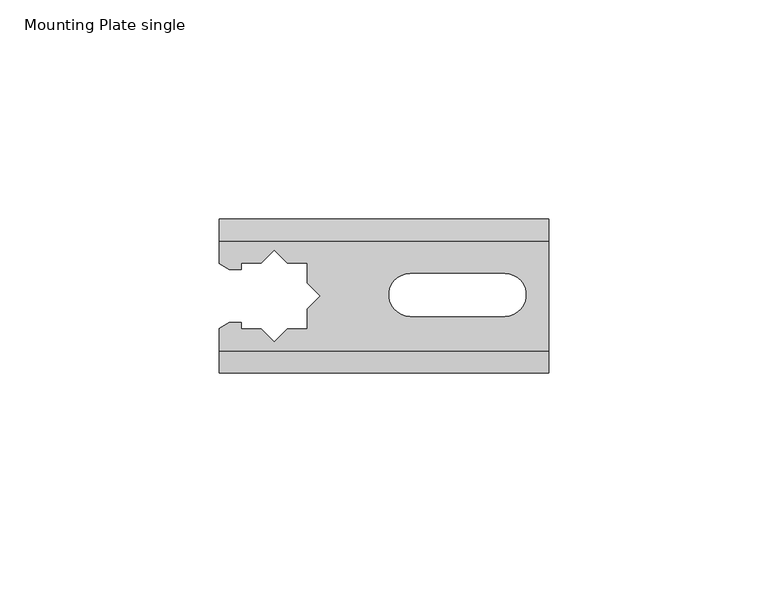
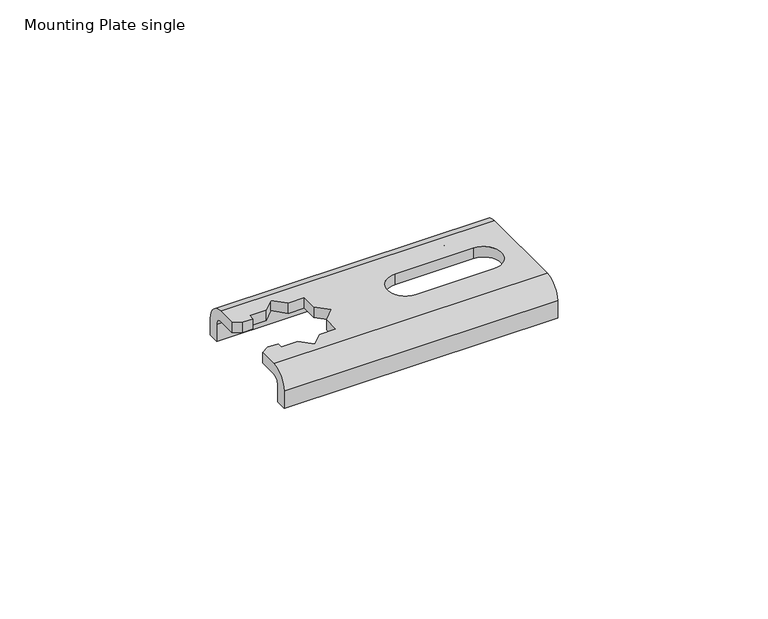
"""IFC4 building model written with IfcOpenShell, lengths in millimetres: valve geometry, Mounting Plate single : Superpipe Mounting Plate - 73 mm single."""

from ifc_helpers import new_model, si_unit, frame, origin, place, context, project, spatial, polyline, circle_curve, source, transform, mapped, element, save
from ifc_brep_helpers import plane_surface, cylinder_surface, revolved_surface, advanced_brep


def mounting_plate_single_762f868f(model_context):
    return source(origin(), model_context, "Body", "AdvancedBrep", [
        advanced_brep(
        [(75.0, 32.0, 0.0), (75.0, 35.0, 0.0), (75.0, 35.0, 5.0), (75.0, 30.0, 10.0), (75.0, 5.0, 10.0), (75.0, 0.0, 5.0), (75.0, 0.0, 0.0), (75.0, 3.0, 0.0), (75.0, 3.0, 5.0), (75.0, 5.0, 7.0), (75.0, 30.0, 7.0), (75.0, 32.0, 5.0), (0.0, 32.0, 0.0), (0.0, 32.0, 5.0), (0.0, 30.0, 7.0), (0.0, 24.8603514, 7.0), (0.0, 24.8603514, 10.0), (0.0, 30.0, 10.0), (0.0, 35.0, 5.0), (0.0, 35.0, 0.0), (0.0, 5.0, 7.0), (0.0, 3.0, 5.0), (0.0, 3.0, 0.0), (0.0, 0.0, 0.0), (0.0, 0.0, 5.0), (0.0, 5.0, 10.0), (0.0, 10.1396486, 10.0), (0.0, 10.1396486, 7.0), (2.2011526, 23.5, 10.0), (5.0, 23.5, 10.0), (5.0, 25.0, 10.0), (9.5, 25.0, 10.0), (12.5, 28.0, 10.0), (15.5, 25.0, 10.0), (20.0, 25.0, 10.0), (20.0, 20.5, 10.0), (23.0, 17.5, 10.0), (20.0, 14.5, 10.0), (20.0, 10.0, 10.0), (15.5, 10.0, 10.0), (12.5, 7.0, 10.0), (9.5, 10.0, 10.0), (5.0, 10.0, 10.0), (5.0, 11.5, 10.0), (2.2011526, 11.5, 10.0), (43.5, 22.638824, 10.0), (65.0, 22.638824, 10.0), (65.0, 12.8766605, 10.0), (43.5, 12.8766605, 10.0), (2.2011526, 11.5, 7.0), (5.0, 11.5, 7.0), (5.0, 10.0, 7.0), (9.5, 10.0, 7.0), (12.5, 7.0, 7.0), (15.5, 10.0, 7.0), (20.0, 10.0, 7.0), (20.0, 14.5, 7.0), (23.0, 17.5, 7.0), (20.0, 20.5, 7.0), (20.0, 25.0, 7.0), (15.5, 25.0, 7.0), (12.5, 28.0, 7.0), (9.5, 25.0, 7.0), (5.0, 25.0, 7.0), (5.0, 23.5, 7.0), (2.2011526, 23.5, 7.0), (65.0, 22.638824, 7.0), (43.5, 22.638824, 7.0), (43.5, 12.8766605, 7.0), (65.0, 12.8766605, 7.0)],
        [
            (0, 1),
            (1, 2),
            (2, 3, circle_curve(frame((75.0, 30.0, 5.0), z_axis=(1.0, 0.0, 0.0), x_axis=(0.0, 1.0, 0.0)), 5.0)),
            (3, 4),
            (4, 5, circle_curve(frame((75.0, 5.0, 5.0), z_axis=(1.0, 0.0, 0.0), x_axis=(0.0, 1.0, 0.0)), 5.0)),
            (5, 6),
            (6, 7),
            (7, 8),
            (8, 9, circle_curve(frame((75.0, 5.0, 5.0), z_axis=(-1.0, 0.0, 0.0), x_axis=(0.0, 1.0, 0.0)), 2.0)),
            (9, 10),
            (10, 11, circle_curve(frame((75.0, 30.0, 5.0), z_axis=(-1.0, 0.0, 0.0), x_axis=(0.0, 1.0, 0.0)), 2.0)),
            (11, 0),
            (12, 13),
            (13, 14, circle_curve(frame((0.0, 30.0, 5.0), z_axis=(1.0, 0.0, 0.0), x_axis=(0.0, 1.0, 0.0)), 2.0)),
            (14, 15),
            (15, 16),
            (16, 17),
            (17, 18, circle_curve(frame((0.0, 30.0, 5.0), z_axis=(-1.0, 0.0, 0.0), x_axis=(0.0, 1.0, 0.0)), 5.0)),
            (18, 19),
            (19, 12),
            (20, 21, circle_curve(frame((0.0, 5.0, 5.0), z_axis=(1.0, 0.0, 0.0), x_axis=(0.0, 1.0, 0.0)), 2.0)),
            (21, 22),
            (22, 23),
            (23, 24),
            (24, 25, circle_curve(frame((0.0, 5.0, 5.0), z_axis=(-1.0, 0.0, 0.0), x_axis=(0.0, 1.0, 0.0)), 5.0)),
            (25, 26),
            (26, 27),
            (27, 20),
            (0, 12),
            (19, 1),
            (18, 2),
            (17, 3),
            (16, 28),
            (28, 29),
            (29, 30),
            (30, 31),
            (31, 32),
            (32, 33),
            (33, 34),
            (34, 35),
            (35, 36),
            (36, 37),
            (37, 38),
            (38, 39),
            (39, 40),
            (40, 41),
            (41, 42),
            (42, 43),
            (43, 44),
            (44, 26),
            (25, 4),
            (45, 46),
            (46, 47, circle_curve(frame((65.0, 17.7577423, 10.0), z_axis=(0.0, 0.0, -1.0), x_axis=(1.0, 0.0, 0.0)), 4.8810818)),
            (47, 48),
            (48, 45, circle_curve(frame((43.5, 17.7577423, 10.0), z_axis=(0.0, 0.0, -1.0), x_axis=(1.0, 0.0, 0.0)), 4.8810818)),
            (24, 5),
            (23, 6),
            (22, 7),
            (21, 8),
            (20, 9),
            (27, 49),
            (49, 50),
            (50, 51),
            (51, 52),
            (52, 53),
            (53, 54),
            (54, 55),
            (55, 56),
            (56, 57),
            (57, 58),
            (58, 59),
            (59, 60),
            (60, 61),
            (61, 62),
            (62, 63),
            (63, 64),
            (64, 65),
            (65, 15),
            (14, 10),
            (66, 67),
            (67, 68, circle_curve(frame((43.5, 17.7577423, 7.0), z_axis=(0.0, 0.0, 1.0), x_axis=(1.0, 0.0, 0.0)), 4.8810818)),
            (68, 69),
            (69, 66, circle_curve(frame((65.0, 17.7577423, 7.0), z_axis=(0.0, 0.0, 1.0), x_axis=(1.0, 0.0, 0.0)), 4.8810818)),
            (11, 13),
            (45, 67),
            (66, 46),
            (48, 68),
            (47, 69),
            (34, 59),
            (58, 35),
            (33, 60),
            (32, 61),
            (28, 65),
            (64, 29),
            (44, 49),
            (43, 50),
            (57, 36),
            (31, 62),
            (30, 63),
            (42, 51),
            (41, 52),
            (40, 53),
            (39, 54),
            (38, 55),
            (37, 56),
        ],
        [
            plane_surface(frame((75.0, 35.0, 0.0), z_axis=(1.0, 0.0, 0.0), x_axis=(0.0, 1.0, 0.0))),
            plane_surface(frame((0.0, 35.0, 0.0), z_axis=(-1.0, 0.0, 0.0), x_axis=(0.0, -1.0, 0.0))),
            plane_surface(frame((75.0, 32.0, 0.0), z_axis=(0.0, 0.0, -1.0), x_axis=(-1.0, 0.0, 0.0))),
            plane_surface(frame((75.0, 35.0, 0.0), z_axis=(0.0, 1.0, 0.0), x_axis=(-1.0, 0.0, 0.0))),
            cylinder_surface(frame((0.0, 30.0, 5.0), z_axis=(1.0, 0.0, 0.0), x_axis=(0.0, 1.0, 0.0)), 5.0),
            plane_surface(frame((75.0, 30.0, 10.0), z_axis=(0.0, 0.0, 1.0), x_axis=(-1.0, 0.0, 0.0))),
            cylinder_surface(frame((0.0, 5.0, 5.0), z_axis=(1.0, 0.0, 0.0), x_axis=(0.0, 1.0, 0.0)), 5.0),
            plane_surface(frame((75.0, 0.0, 5.0), z_axis=(0.0, -1.0, 0.0), x_axis=(-1.0, 0.0, 0.0))),
            plane_surface(frame((75.0, 0.0, 0.0), z_axis=(0.0, 0.0, -1.0), x_axis=(-1.0, 0.0, 0.0))),
            plane_surface(frame((75.0, 3.0, 0.0), z_axis=(0.0, 1.0, 0.0), x_axis=(-1.0, 0.0, 0.0))),
            revolved_surface(polyline([(0.0, 7.0, 5.0), (75.0, 7.0, 5.0)]), (0.0, 5.0, 5.0), (-1.0, 0.0, 0.0)),
            plane_surface(frame((75.0, 5.0, 7.0), z_axis=(0.0, 0.0, -1.0), x_axis=(-1.0, 0.0, 0.0))),
            plane_surface(frame((75.0, 32.0, 5.0), z_axis=(0.0, -1.0, 0.0), x_axis=(-1.0, 0.0, 0.0))),
            plane_surface(frame((65.0, 22.638824, 10.0), z_axis=(0.0, -1.0, 0.0), x_axis=(0.0, 0.0, -1.0))),
            revolved_surface(polyline([(48.3810818, 17.7577423, 10.0), (48.3810818, 17.7577423, 7.0)]), (43.5, 17.7577423, 7.0), (0.0, 0.0, 1.0)),
            plane_surface(frame((43.5, 12.8766605, 10.0), z_axis=(0.0, 1.0, 0.0), x_axis=(0.0, 0.0, -1.0))),
            revolved_surface(polyline([(69.8810818, 17.7577423, 10.0), (69.8810818, 17.7577423, 7.0)]), (65.0, 17.7577423, 7.0), (0.0, 0.0, 1.0)),
            plane_surface(frame((20.0, 20.5, 10.0), z_axis=(-1.0, 0.0, 0.0), x_axis=(0.0, 0.0, -1.0))),
            plane_surface(frame((20.0, 25.0, 10.0), z_axis=(0.0, -1.0, 0.0), x_axis=(0.0, 0.0, -1.0))),
            plane_surface(frame((15.5, 25.0, 10.0), z_axis=(-0.7071067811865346, -0.7071067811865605, 0.0), x_axis=(0.0, 0.0, -1.0))),
            plane_surface(frame((5.0, 23.5, 10.0), z_axis=(0.0, -1.0, 0.0), x_axis=(0.0, 0.0, -1.0))),
            plane_surface(frame((2.2011526, 23.5, 10.0), z_axis=(-0.525721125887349, -0.8506569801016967, 0.0), x_axis=(0.0, 0.0, -1.0))),
            plane_surface(frame((0.0, 10.1396486, 10.0), z_axis=(-0.525721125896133, 0.850656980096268, 0.0), x_axis=(0.0, 0.0, -1.0))),
            plane_surface(frame((2.2011526, 11.5, 10.0), z_axis=(0.0, 1.0, 0.0), x_axis=(0.0, 0.0, -1.0))),
            plane_surface(frame((23.0, 17.5, 10.0), z_axis=(-0.7071067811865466, -0.7071067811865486, 0.0), x_axis=(0.0, 0.0, -1.0))),
            plane_surface(frame((12.5, 28.0, 10.0), z_axis=(0.7071067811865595, -0.7071067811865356, 0.0), x_axis=(0.0, 0.0, -1.0))),
            plane_surface(frame((9.5, 25.0, 10.0), z_axis=(0.0, -1.0, 0.0), x_axis=(0.0, 0.0, -1.0))),
            plane_surface(frame((5.0, 25.0, 10.0), z_axis=(1.0, 0.0, 0.0), x_axis=(0.0, 0.0, -1.0))),
            plane_surface(frame((5.0, 11.5, 10.0), z_axis=(1.0, 0.0, 0.0), x_axis=(0.0, 0.0, -1.0))),
            plane_surface(frame((5.0, 10.0, 10.0), z_axis=(0.0, 1.0, 0.0), x_axis=(0.0, 0.0, -1.0))),
            plane_surface(frame((9.5, 10.0, 10.0), z_axis=(0.7071067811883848, 0.7071067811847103, 0.0), x_axis=(0.0, 0.0, -1.0))),
            plane_surface(frame((12.5, 7.0, 10.0), z_axis=(-0.707106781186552, 0.707106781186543, 0.0), x_axis=(0.0, 0.0, -1.0))),
            plane_surface(frame((15.5, 10.0, 10.0), z_axis=(0.0, 1.0, 0.0), x_axis=(0.0, 0.0, -1.0))),
            plane_surface(frame((20.0, 10.0, 10.0), z_axis=(-1.0, 0.0, 0.0), x_axis=(0.0, 0.0, -1.0))),
            plane_surface(frame((20.0, 14.5, 10.0), z_axis=(-0.7071067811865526, 0.7071067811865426, 0.0), x_axis=(0.0, 0.0, -1.0))),
            revolved_surface(polyline([(0.0, 32.0, 5.0), (75.0, 32.0, 5.0)]), (0.0, 30.0, 5.0), (-1.0, 0.0, 0.0)),
        ],
        [
            (0, [[1, 2, 3, 4, 5, 6, 7, 8, 9, 10, 11, 12]]),
            (1, [[13, 14, 15, 16, 17, 18, 19, 20]]),
            (1, [[21, 22, 23, 24, 25, 26, 27, 28]]),
            (2, [[-1, 29, -20, 30]]),
            (3, [[-2, -30, -19, 31]]),
            (4, [[-3, -31, -18, 32]]),
            (5, [[-4, -32, -17, 33, 34, 35, 36, 37, 38, 39, 40, 41, 42, 43, 44, 45, 46, 47, 48, 49, 50, -26, 51], [52, 53, 54, 55]]),
            (6, [[-5, -51, -25, 56]]),
            (7, [[-6, -56, -24, 57]]),
            (8, [[-7, -57, -23, 58]]),
            (9, [[-8, -58, -22, 59]]),
            (10, [[-9, -59, -21, 60]]),
            (11, [[-10, -60, -28, 61, 62, 63, 64, 65, 66, 67, 68, 69, 70, 71, 72, 73, 74, 75, 76, 77, 78, -15, 79], [80, 81, 82, 83]]),
            (12, [[-12, 84, -13, -29]]),
            (13, [[85, -80, 86, -52]]),
            (14, [[-85, -55, 87, -81]]),
            (15, [[-87, -54, 88, -82]]),
            (16, [[-86, -83, -88, -53]]),
            (17, [[89, -71, 90, -40]]),
            (18, [[-89, -39, 91, -72]]),
            (19, [[-91, -38, 92, -73]]),
            (20, [[93, -77, 94, -34]]),
            (21, [[-93, -33, -16, -78]]),
            (22, [[95, -61, -27, -50]]),
            (23, [[-95, -49, 96, -62]]),
            (24, [[-90, -70, 97, -41]]),
            (25, [[-92, -37, 98, -74]]),
            (26, [[-98, -36, 99, -75]]),
            (27, [[-94, -76, -99, -35]]),
            (28, [[-96, -48, 100, -63]]),
            (29, [[-100, -47, 101, -64]]),
            (30, [[-101, -46, 102, -65]]),
            (31, [[-102, -45, 103, -66]]),
            (32, [[-103, -44, 104, -67]]),
            (33, [[-104, -43, 105, -68]]),
            (34, [[-97, -69, -105, -42]]),
            (35, [[-11, -79, -14, -84]]),
        ],
    ),
    ])


if __name__ == "__main__":
    model = new_model("IFC4")
    model_context = context("Model", 3, world=origin())
    ifc_project = project(units=[si_unit("LENGTHUNIT", "METRE", prefix="MILLI")], contexts=[model_context])
    site = spatial("IfcSite", under=ifc_project)
    building = spatial("IfcBuilding", under=site)
    placement = place(None, origin())
    mounting_plate_single_shape = mounting_plate_single_762f868f(model_context)
    element("IfcValve", 1, ObjectType="Mounting Plate single : Superpipe Mounting Plate - 73 mm single", at=placement, inside=building, context=model_context, shape_type="MappedRepresentation", body=[
        mapped(mounting_plate_single_shape, transform((0.0, 0.0, 0.0), x_axis=(1.0, 0.0, 0.0), y_axis=(0.0, 1.0, 0.0), z_axis=(0.0, 0.0, 1.0))),
    ])
    save(model, "model.ifc")
